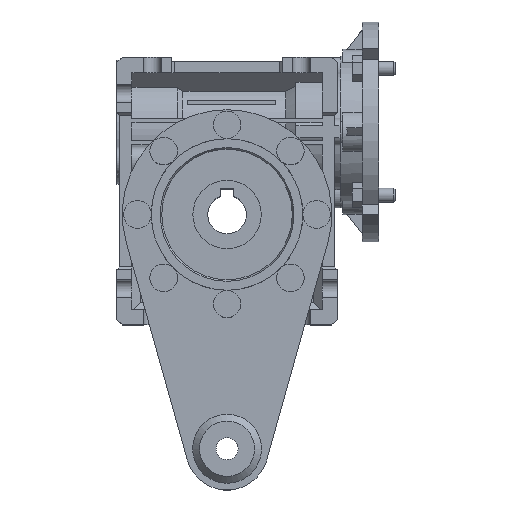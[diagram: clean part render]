
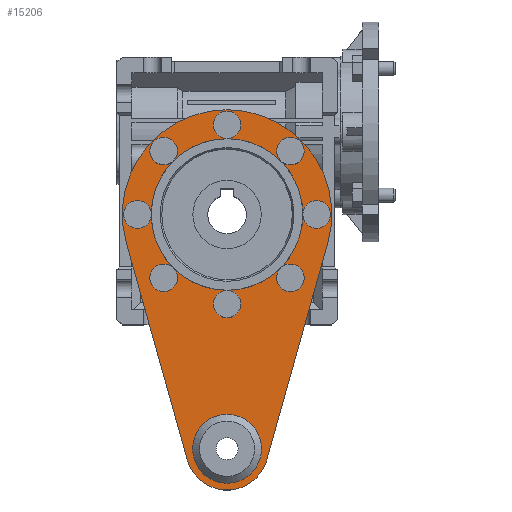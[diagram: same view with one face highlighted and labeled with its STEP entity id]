
A CAD part, top view. The second image highlights one B-rep face of the part: STEP entity #15206.
In plain terms, the highlighted planar face has unit normal (0, 0, 1).
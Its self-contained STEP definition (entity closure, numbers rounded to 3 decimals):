
#719=CIRCLE('',#16419,38.);
#720=CIRCLE('',#16422,27.5);
#721=CIRCLE('',#16423,27.5);
#722=CIRCLE('',#16424,27.5);
#723=CIRCLE('',#16425,27.5);
#724=CIRCLE('',#16426,27.5);
#725=CIRCLE('',#16427,27.5);
#726=CIRCLE('',#16428,27.5);
#727=CIRCLE('',#16429,27.5);
#730=CIRCLE('',#16433,15.);
#731=CIRCLE('',#16435,12.5);
#732=CIRCLE('',#16436,5.);
#733=CIRCLE('',#16437,5.);
#734=CIRCLE('',#16438,5.);
#735=CIRCLE('',#16439,5.);
#736=CIRCLE('',#16440,5.);
#737=CIRCLE('',#16441,5.);
#738=CIRCLE('',#16442,5.);
#739=CIRCLE('',#16443,5.);
#4444=ORIENTED_EDGE('',*,*,#6993,.T.);
#4445=ORIENTED_EDGE('',*,*,#6984,.F.);
#4446=ORIENTED_EDGE('',*,*,#6994,.T.);
#4447=ORIENTED_EDGE('',*,*,#6983,.F.);
#4448=ORIENTED_EDGE('',*,*,#6995,.T.);
#4449=ORIENTED_EDGE('',*,*,#6982,.F.);
#4450=ORIENTED_EDGE('',*,*,#6996,.T.);
#4451=ORIENTED_EDGE('',*,*,#6989,.F.);
#4452=ORIENTED_EDGE('',*,*,#6997,.T.);
#4453=ORIENTED_EDGE('',*,*,#6988,.F.);
#4454=ORIENTED_EDGE('',*,*,#6998,.T.);
#4455=ORIENTED_EDGE('',*,*,#6987,.F.);
#4456=ORIENTED_EDGE('',*,*,#6999,.T.);
#4457=ORIENTED_EDGE('',*,*,#6986,.F.);
#4458=ORIENTED_EDGE('',*,*,#7000,.T.);
#4459=ORIENTED_EDGE('',*,*,#6985,.F.);
#4460=ORIENTED_EDGE('',*,*,#7001,.T.);
#4461=ORIENTED_EDGE('',*,*,#6974,.T.);
#4462=ORIENTED_EDGE('',*,*,#6978,.T.);
#4463=ORIENTED_EDGE('',*,*,#6981,.T.);
#4464=ORIENTED_EDGE('',*,*,#6992,.T.);
#6974=EDGE_CURVE('',#8548,#8547,#10192,.T.);
#6978=EDGE_CURVE('',#8547,#8550,#719,.T.);
#6981=EDGE_CURVE('',#8550,#8552,#10197,.T.);
#6982=EDGE_CURVE('',#8553,#8554,#720,.T.);
#6983=EDGE_CURVE('',#8554,#8555,#721,.T.);
#6984=EDGE_CURVE('',#8555,#8556,#722,.T.);
#6985=EDGE_CURVE('',#8556,#8557,#723,.T.);
#6986=EDGE_CURVE('',#8557,#8558,#724,.T.);
#6987=EDGE_CURVE('',#8558,#8559,#725,.T.);
#6988=EDGE_CURVE('',#8559,#8560,#726,.T.);
#6989=EDGE_CURVE('',#8560,#8553,#727,.T.);
#6992=EDGE_CURVE('',#8552,#8548,#730,.T.);
#6993=EDGE_CURVE('',#8562,#8562,#731,.T.);
#6994=EDGE_CURVE('',#8555,#8555,#732,.F.);
#6995=EDGE_CURVE('',#8554,#8554,#733,.F.);
#6996=EDGE_CURVE('',#8553,#8553,#734,.F.);
#6997=EDGE_CURVE('',#8560,#8560,#735,.F.);
#6998=EDGE_CURVE('',#8559,#8559,#736,.F.);
#6999=EDGE_CURVE('',#8558,#8558,#737,.F.);
#7000=EDGE_CURVE('',#8557,#8557,#738,.F.);
#7001=EDGE_CURVE('',#8556,#8556,#739,.F.);
#8547=VERTEX_POINT('',#24866);
#8548=VERTEX_POINT('',#24868);
#8550=VERTEX_POINT('',#24874);
#8552=VERTEX_POINT('',#24880);
#8553=VERTEX_POINT('',#24884);
#8554=VERTEX_POINT('',#24885);
#8555=VERTEX_POINT('',#24887);
#8556=VERTEX_POINT('',#24889);
#8557=VERTEX_POINT('',#24891);
#8558=VERTEX_POINT('',#24893);
#8559=VERTEX_POINT('',#24895);
#8560=VERTEX_POINT('',#24897);
#8562=VERTEX_POINT('',#24906);
#10192=LINE('',#24867,#11772);
#10197=LINE('',#24881,#11777);
#11772=VECTOR('',#20173,1000.);
#11777=VECTOR('',#20186,1000.);
#12727=EDGE_LOOP('',(#4444));
#12728=EDGE_LOOP('',(#4445,#4446,#4447,#4448,#4449,#4450,#4451,#4452,#4453,
#4454,#4455,#4456,#4457,#4458,#4459,#4460));
#12729=EDGE_LOOP('',(#4461,#4462,#4463,#4464));
#13700=FACE_BOUND('',#12727,.T.);
#13701=FACE_BOUND('',#12728,.T.);
#13702=FACE_BOUND('',#12729,.T.);
#14428=PLANE('',#16434);
#15206=ADVANCED_FACE('',(#13700,#13701,#13702),#14428,.T.);
#16419=AXIS2_PLACEMENT_3D('',#24875,#20180,#20181);
#16422=AXIS2_PLACEMENT_3D('',#24883,#20189,#20190);
#16423=AXIS2_PLACEMENT_3D('',#24886,#20191,#20192);
#16424=AXIS2_PLACEMENT_3D('',#24888,#20193,#20194);
#16425=AXIS2_PLACEMENT_3D('',#24890,#20195,#20196);
#16426=AXIS2_PLACEMENT_3D('',#24892,#20197,#20198);
#16427=AXIS2_PLACEMENT_3D('',#24894,#20199,#20200);
#16428=AXIS2_PLACEMENT_3D('',#24896,#20201,#20202);
#16429=AXIS2_PLACEMENT_3D('',#24898,#20203,#20204);
#16433=AXIS2_PLACEMENT_3D('',#24903,#20211,#20212);
#16434=AXIS2_PLACEMENT_3D('',#24904,#20213,#20214);
#16435=AXIS2_PLACEMENT_3D('',#24905,#20215,#20216);
#16436=AXIS2_PLACEMENT_3D('',#24907,#20217,#20218);
#16437=AXIS2_PLACEMENT_3D('',#24908,#20219,#20220);
#16438=AXIS2_PLACEMENT_3D('',#24909,#20221,#20222);
#16439=AXIS2_PLACEMENT_3D('',#24910,#20223,#20224);
#16440=AXIS2_PLACEMENT_3D('',#24911,#20225,#20226);
#16441=AXIS2_PLACEMENT_3D('',#24912,#20227,#20228);
#16442=AXIS2_PLACEMENT_3D('',#24913,#20229,#20230);
#16443=AXIS2_PLACEMENT_3D('',#24914,#20231,#20232);
#20173=DIRECTION('',(0.271,0.963,0.));
#20180=DIRECTION('',(0.,0.,1.));
#20181=DIRECTION('',(1.,0.,0.));
#20186=DIRECTION('',(0.271,-0.963,0.));
#20189=DIRECTION('',(0.,0.,1.));
#20190=DIRECTION('',(1.,0.,0.));
#20191=DIRECTION('',(0.,0.,1.));
#20192=DIRECTION('',(1.,0.,0.));
#20193=DIRECTION('',(0.,0.,1.));
#20194=DIRECTION('',(1.,0.,0.));
#20195=DIRECTION('',(0.,0.,1.));
#20196=DIRECTION('',(1.,0.,0.));
#20197=DIRECTION('',(0.,0.,1.));
#20198=DIRECTION('',(1.,0.,0.));
#20199=DIRECTION('',(0.,0.,1.));
#20200=DIRECTION('',(1.,0.,0.));
#20201=DIRECTION('',(0.,0.,1.));
#20202=DIRECTION('',(1.,0.,0.));
#20203=DIRECTION('',(0.,0.,1.));
#20204=DIRECTION('',(1.,0.,0.));
#20211=DIRECTION('',(0.,0.,1.));
#20212=DIRECTION('',(1.,0.,0.));
#20213=DIRECTION('',(0.,0.,1.));
#20214=DIRECTION('',(1.,0.,0.));
#20215=DIRECTION('',(0.,0.,-1.));
#20216=DIRECTION('',(-1.,0.,0.));
#20217=DIRECTION('',(0.,0.,1.));
#20218=DIRECTION('',(1.,0.,0.));
#20219=DIRECTION('',(0.,0.,1.));
#20220=DIRECTION('',(1.,0.,0.));
#20221=DIRECTION('',(0.,0.,1.));
#20222=DIRECTION('',(1.,0.,0.));
#20223=DIRECTION('',(0.,0.,1.));
#20224=DIRECTION('',(1.,0.,0.));
#20225=DIRECTION('',(0.,0.,1.));
#20226=DIRECTION('',(1.,0.,0.));
#20227=DIRECTION('',(0.,0.,1.));
#20228=DIRECTION('',(1.,0.,0.));
#20229=DIRECTION('',(0.,0.,1.));
#20230=DIRECTION('',(1.,0.,0.));
#20231=DIRECTION('',(0.,0.,1.));
#20232=DIRECTION('',(1.,0.,0.));
#24866=CARTESIAN_POINT('',(36.582,-10.282,2.));
#24867=CARTESIAN_POINT('',(14.44,-89.059,2.));
#24868=CARTESIAN_POINT('',(14.44,-89.059,2.));
#24874=CARTESIAN_POINT('',(-36.582,-10.282,2.));
#24875=CARTESIAN_POINT('',(0.,0.,2.));
#24880=CARTESIAN_POINT('',(-14.44,-89.059,2.));
#24881=CARTESIAN_POINT('',(-36.582,-10.282,2.));
#24883=CARTESIAN_POINT('',(0.,0.,2.));
#24884=CARTESIAN_POINT('',(0.,27.5,2.));
#24885=CARTESIAN_POINT('',(-19.445,19.445,2.));
#24886=CARTESIAN_POINT('',(0.,0.,2.));
#24887=CARTESIAN_POINT('',(-27.5,0.,2.));
#24888=CARTESIAN_POINT('',(0.,0.,2.));
#24889=CARTESIAN_POINT('',(-19.445,-19.445,2.));
#24890=CARTESIAN_POINT('',(0.,0.,2.));
#24891=CARTESIAN_POINT('',(0.,-27.5,2.));
#24892=CARTESIAN_POINT('',(0.,0.,2.));
#24893=CARTESIAN_POINT('',(19.445,-19.445,2.));
#24894=CARTESIAN_POINT('',(0.,0.,2.));
#24895=CARTESIAN_POINT('',(27.5,0.,2.));
#24896=CARTESIAN_POINT('',(0.,0.,2.));
#24897=CARTESIAN_POINT('',(19.445,19.445,2.));
#24898=CARTESIAN_POINT('',(0.,0.,2.));
#24903=CARTESIAN_POINT('',(0.,-85.,2.));
#24904=CARTESIAN_POINT('',(0.,0.,2.));
#24905=CARTESIAN_POINT('',(0.,-85.,2.));
#24906=CARTESIAN_POINT('',(-12.5,-85.,2.));
#24907=CARTESIAN_POINT('',(-32.5,0.,2.));
#24908=CARTESIAN_POINT('',(-22.981,22.981,2.));
#24909=CARTESIAN_POINT('',(0.,32.5,2.));
#24910=CARTESIAN_POINT('',(22.981,22.981,2.));
#24911=CARTESIAN_POINT('',(32.5,0.,2.));
#24912=CARTESIAN_POINT('',(22.981,-22.981,2.));
#24913=CARTESIAN_POINT('',(0.,-32.5,2.));
#24914=CARTESIAN_POINT('',(-22.981,-22.981,2.));
